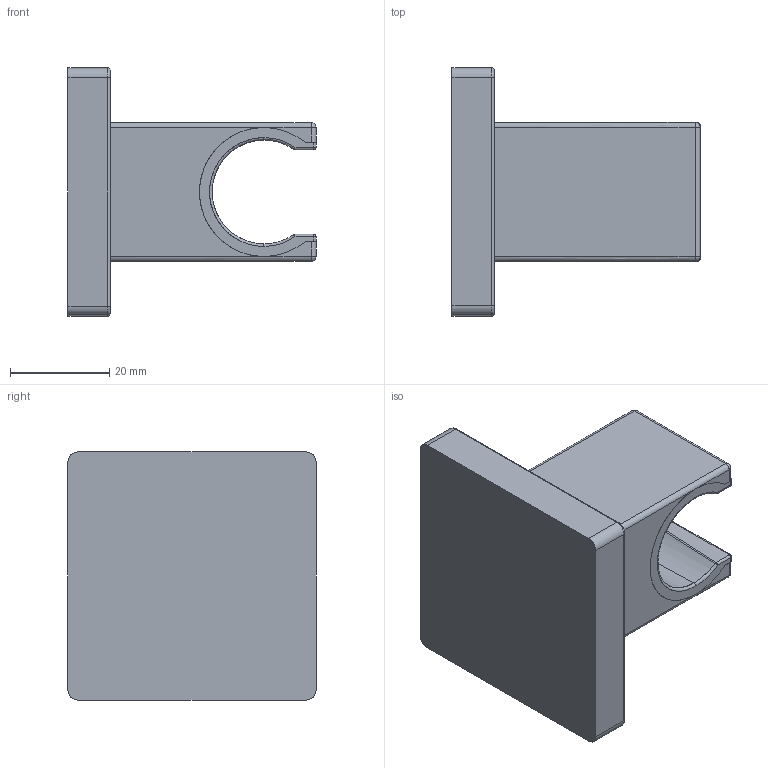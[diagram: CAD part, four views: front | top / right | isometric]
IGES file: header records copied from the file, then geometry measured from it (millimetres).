
Start section: SolidWorks IGES file using analytic representation for surfaces
Global section: file name: C:\Users\J1827277\Desktop\疏擘\FH 8876A.IGS,1; native system: 5HSolidWorks 2013; preprocessor: SolidWorks 2013; author: J1827277; date: 130406.084533; units: millimetre
Bounding box: 50 x 50 x 50 mm (x, y, z)
Surface area: 12922.5 mm2 (no closed solid volume)
Topology: 0 solids, 0 shells, 92 faces, 639 edges, 627 vertices
Faces by surface type: revolution 53, bspline 39
